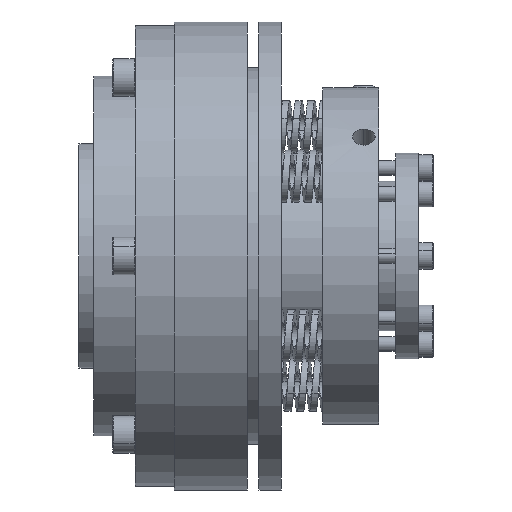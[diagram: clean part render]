
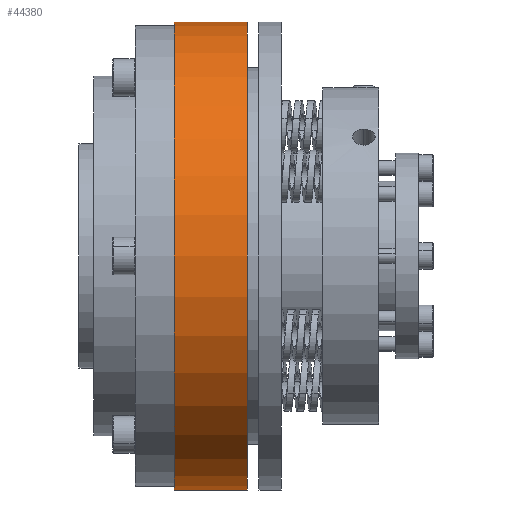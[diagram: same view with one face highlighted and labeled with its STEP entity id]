
A CAD part, front view. The second image highlights one B-rep face of the part: STEP entity #44380.
In plain terms, the highlighted cylindrical face has radius 62.5 mm (diameter 125 mm), a partial arc.
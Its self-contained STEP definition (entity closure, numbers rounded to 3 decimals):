
#2217 = CARTESIAN_POINT ( 'NONE',  ( 45., 0., -62.5 ) ) ;
#2227 = EDGE_CURVE ( 'NONE', #43955, #24935, #44816, .T. ) ;
#3878 = VECTOR ( 'NONE', #50872, 1000. ) ;
#7916 = LINE ( 'NONE', #55969, #3878 ) ;
#10370 = CARTESIAN_POINT ( 'NONE',  ( 0., 0., 0. ) ) ;
#12439 = CARTESIAN_POINT ( 'NONE',  ( 25.5, 0., 0. ) ) ;
#12720 = ORIENTED_EDGE ( 'NONE', *, *, #16042, .T. ) ;
#16042 = EDGE_CURVE ( 'NONE', #43955, #18729, #21506, .T. ) ;
#17205 = VERTEX_POINT ( 'NONE', #40709 ) ;
#18729 = VERTEX_POINT ( 'NONE', #55364 ) ;
#21184 = DIRECTION ( 'NONE',  ( 0., 0., 1. ) ) ;
#21506 = CIRCLE ( 'NONE', #43374, 62.5 ) ;
#24935 = VERTEX_POINT ( 'NONE', #33628 ) ;
#26172 = CYLINDRICAL_SURFACE ( 'NONE', #50741, 62.5 ) ;
#33628 = CARTESIAN_POINT ( 'NONE',  ( 25.5, 0., -62.5 ) ) ;
#34576 = CARTESIAN_POINT ( 'NONE',  ( 0., 0., -62.5 ) ) ;
#35905 = EDGE_LOOP ( 'NONE', ( #36242, #12720, #52020, #39242 ) ) ;
#36242 = ORIENTED_EDGE ( 'NONE', *, *, #2227, .F. ) ;
#36587 = EDGE_CURVE ( 'NONE', #18729, #17205, #7916, .T. ) ;
#36920 = DIRECTION ( 'NONE',  ( -1., 0., 0. ) ) ;
#39242 = ORIENTED_EDGE ( 'NONE', *, *, #50406, .F. ) ;
#39490 = DIRECTION ( 'NONE',  ( -1., 0., 0. ) ) ;
#40709 = CARTESIAN_POINT ( 'NONE',  ( 25.5, 0., 62.5 ) ) ;
#42472 = FACE_OUTER_BOUND ( 'NONE', #35905, .T. ) ;
#43374 = AXIS2_PLACEMENT_3D ( 'NONE', #47192, #51609, #21184 ) ;
#43955 = VERTEX_POINT ( 'NONE', #2217 ) ;
#44380 = ADVANCED_FACE ( 'NONE', ( #42472 ), #26172, .T. ) ;
#44816 = LINE ( 'NONE', #34576, #48136 ) ;
#46819 = DIRECTION ( 'NONE',  ( 0., 0., 1. ) ) ;
#47192 = CARTESIAN_POINT ( 'NONE',  ( 45., 0., 0. ) ) ;
#48136 = VECTOR ( 'NONE', #39490, 1000. ) ;
#49273 = DIRECTION ( 'NONE',  ( 0., 0., 1. ) ) ;
#50406 = EDGE_CURVE ( 'NONE', #24935, #17205, #55466, .T. ) ;
#50741 = AXIS2_PLACEMENT_3D ( 'NONE', #10370, #36920, #49273 ) ;
#50872 = DIRECTION ( 'NONE',  ( -1., 0., 0. ) ) ;
#51185 = DIRECTION ( 'NONE',  ( -1., 0., 0. ) ) ;
#51609 = DIRECTION ( 'NONE',  ( -1., 0., 0. ) ) ;
#52020 = ORIENTED_EDGE ( 'NONE', *, *, #36587, .T. ) ;
#53813 = AXIS2_PLACEMENT_3D ( 'NONE', #12439, #51185, #46819 ) ;
#55364 = CARTESIAN_POINT ( 'NONE',  ( 45., 0., 62.5 ) ) ;
#55466 = CIRCLE ( 'NONE', #53813, 62.5 ) ;
#55969 = CARTESIAN_POINT ( 'NONE',  ( 0., 0., 62.5 ) ) ;
